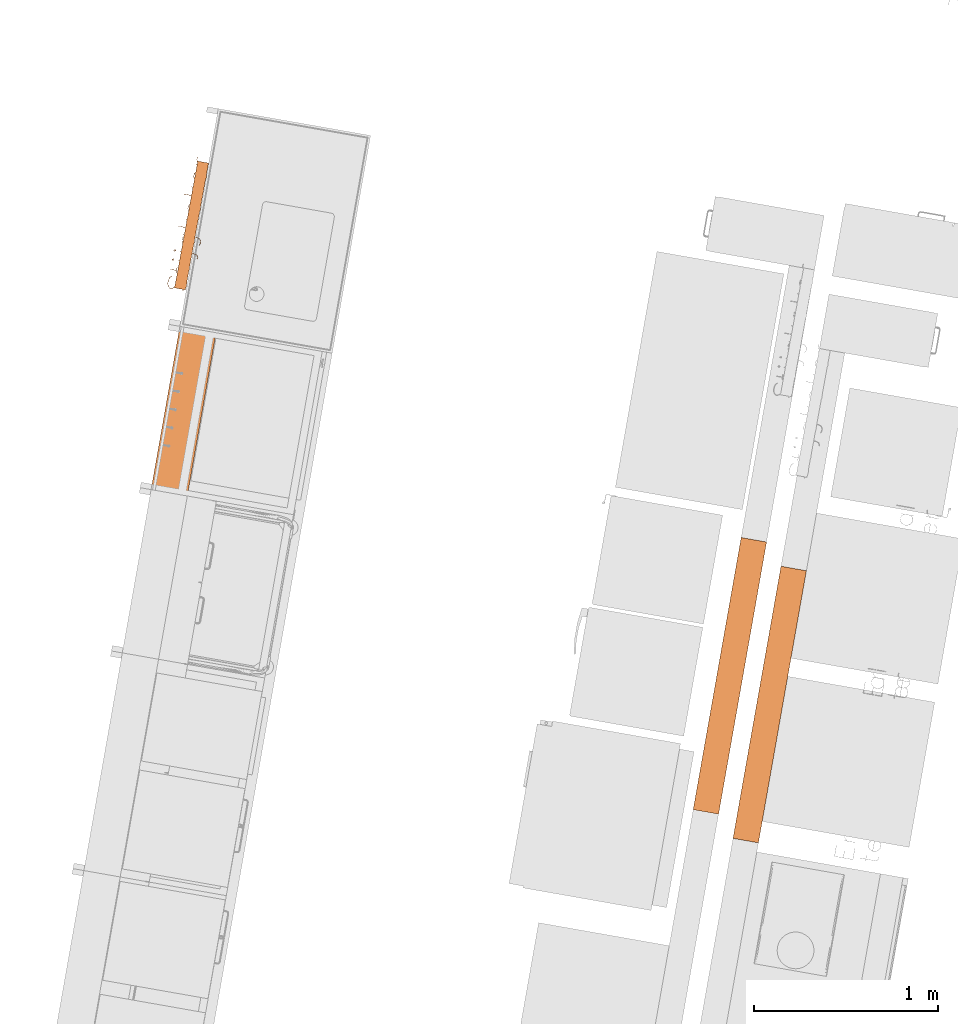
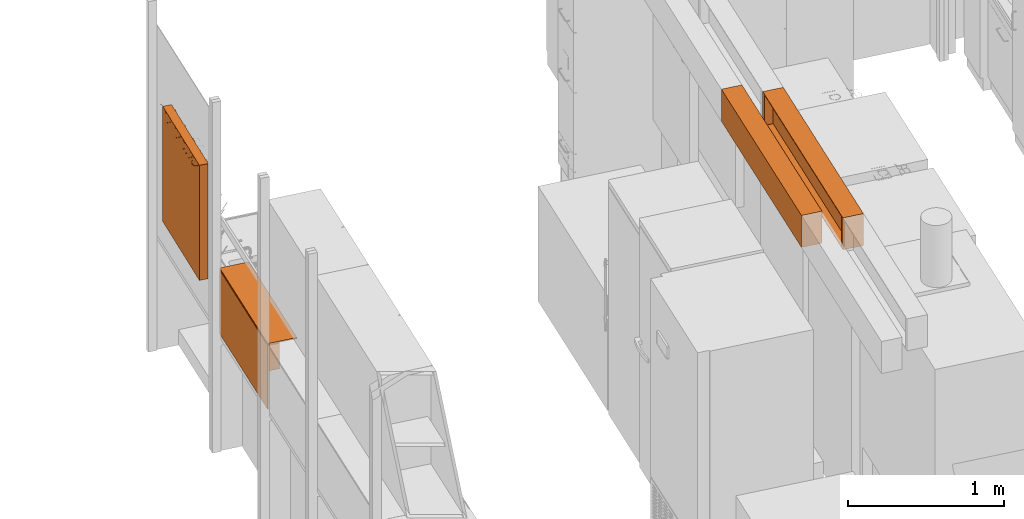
# One storey, part 15 of 43: 4 proxies.
"""IFC2X3 building model written with IfcOpenShell, lengths in metres."""

from ifc_helpers import new_model, entity, si_unit, converted_unit, derived_unit, direction, frame, frame_2d, origin, origin_2d_with_axis, place, context, subcontext, project, spatial, polyline, circle_curve, parameter, trimmed, segment, composite_curve, rectangle, outline, extrude, face_set, surface_model, source, transform, mapped, material, material_list, type_object, type_shapes, element, save


model = new_model("IFC2X3")

# Units and contexts
model_context = context("Model", 3, precision=1e-05, world=origin(), true_north=direction((6.12303176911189e-17, 1.0)))
body_context = subcontext(model_context, "Body", "Model", "MODEL_VIEW")
ifc_project = project(units=[si_unit("LENGTHUNIT", "METRE"), si_unit("AREAUNIT", "SQUARE_METRE"), si_unit("VOLUMEUNIT", "CUBIC_METRE"), converted_unit("PLANEANGLEUNIT", "DEGREE", entity("IfcRatioMeasure", 0.0174532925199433), si_unit("PLANEANGLEUNIT", "RADIAN"), dimensions=[0, 0, 0, 0, 0, 0, 0]), si_unit("MASSUNIT", "GRAM", prefix="KILO"), derived_unit("MASSDENSITYUNIT", [(si_unit("MASSUNIT", "GRAM", prefix="KILO"), 1), (si_unit("LENGTHUNIT", "METRE"), -3)]), derived_unit("MOMENTOFINERTIAUNIT", [(si_unit("LENGTHUNIT", "METRE"), 4)]), si_unit("TIMEUNIT", "SECOND"), si_unit("FREQUENCYUNIT", "HERTZ"), si_unit("THERMODYNAMICTEMPERATUREUNIT", "DEGREE_CELSIUS"), derived_unit("THERMALTRANSMITTANCEUNIT", [(si_unit("MASSUNIT", "GRAM", prefix="KILO"), 1), (si_unit("THERMODYNAMICTEMPERATUREUNIT", "KELVIN"), -1), (si_unit("TIMEUNIT", "SECOND"), -3)]), derived_unit("VOLUMETRICFLOWRATEUNIT", [(si_unit("LENGTHUNIT", "METRE"), 3), (si_unit("TIMEUNIT", "SECOND"), -1)]), si_unit("ELECTRICCURRENTUNIT", "AMPERE"), si_unit("ELECTRICVOLTAGEUNIT", "VOLT"), si_unit("POWERUNIT", "WATT"), si_unit("FORCEUNIT", "NEWTON", prefix="KILO"), si_unit("ILLUMINANCEUNIT", "LUX"), si_unit("LUMINOUSFLUXUNIT", "LUMEN"), si_unit("LUMINOUSINTENSITYUNIT", "CANDELA"), derived_unit("USERDEFINED", [(si_unit("MASSUNIT", "GRAM", prefix="KILO"), -1), (si_unit("LENGTHUNIT", "METRE"), -2), (si_unit("TIMEUNIT", "SECOND"), 3), (si_unit("LUMINOUSFLUXUNIT", "LUMEN"), 1)]), derived_unit("LINEARVELOCITYUNIT", [(si_unit("LENGTHUNIT", "METRE"), 1), (si_unit("TIMEUNIT", "SECOND"), -1)]), si_unit("PRESSUREUNIT", "PASCAL"), derived_unit("USERDEFINED", [(si_unit("LENGTHUNIT", "METRE"), -2), (si_unit("MASSUNIT", "GRAM", prefix="KILO"), 1), (si_unit("TIMEUNIT", "SECOND"), -2)]), derived_unit("LINEARFORCEUNIT", [(si_unit("MASSUNIT", "GRAM", prefix="KILO"), 1), (si_unit("LENGTHUNIT", "METRE"), 1), (si_unit("TIMEUNIT", "SECOND"), -2), (si_unit("LENGTHUNIT", "METRE"), -1)]), derived_unit("PLANARFORCEUNIT", [(si_unit("MASSUNIT", "GRAM", prefix="KILO"), 1), (si_unit("LENGTHUNIT", "METRE"), 1), (si_unit("TIMEUNIT", "SECOND"), -2), (si_unit("LENGTHUNIT", "METRE"), -2)])], contexts=[model_context])

# Site, building, storey
site_placement = place(None, origin())
site = spatial("IfcSite", under=ifc_project, at=site_placement, Name="Default", CompositionType="ELEMENT")
building_placement = place(site_placement, origin())
building = spatial("IfcBuilding", under=site, at=building_placement, CompositionType="ELEMENT")
storey_placement = place(building_placement, frame((0.0, 0.0, 3.0)))
storey = spatial("IfcBuildingStorey", under=building, at=storey_placement, Name="01 OG", CompositionType="ELEMENT", Elevation=3.0)

# Proxies
ifc_material_1 = material(Name="dh_Weiß")
ifc_material_2 = material(Name="dh_Glas WHS")
ifc_material_3 = material(Name="dh_Blau")
ifc_material_list_1 = material_list([ifc_material_1, ifc_material_2, ifc_material_3])
ifc_material_list_2 = material_list([ifc_material_1, ifc_material_2, ifc_material_3])
building_element_proxy_type_1 = type_object("IfcBuildingElementProxyType", Name="dh_Medienwand WHA:90 Stehtisch", PredefinedType="NOTDEFINED", material=ifc_material_list_2)
shared_shape_1 = source(origin(), body_context, "Body", "SweptSolid", [
    extrude(outline(composite_curve([segment(trimmed(circle_curve(frame_2d((0.0, 0.0), x_axis=(-1.0, 0.0)), 0.01), [parameter(0.0)], [parameter(180.0)], True, "PARAMETER"), True, "CONTINUOUS"), segment(polyline([(0.01, 0.0), (-0.01, 0.0)]), True, "CONTINUOUS")], self_intersect=False)), frame((-0.589999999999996, 0.1, 1.40999999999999), z_axis=(0.0, -1.0, 0.0), x_axis=(1.0, 0.0, 0.0)), (0.0, 0.0, -1.0), 0.2),
    extrude(outline(composite_curve([segment(trimmed(circle_curve(origin_2d_with_axis(), 0.00999999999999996), [parameter(0.0)], [parameter(180.0)], True, "PARAMETER"), True, "CONTINUOUS"), segment(polyline([(-0.0099999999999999, 0.0), (0.0099999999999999, 0.0)]), True, "CONTINUOUS")], self_intersect=False)), frame((0.290000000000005, 0.1, 1.40999999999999), z_axis=(0.0, 1.0, 0.0), x_axis=(1.0, 0.0, 0.0)), (0.0, 0.0, 1.0), 0.2),
    extrude(rectangle(XDim=0.9, YDim=0.2, at=origin_2d_with_axis()), frame((-0.149999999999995, 0.2, 1.40999999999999), z_axis=(0.0, 0.0, 1.0), x_axis=(-1.0, 0.0, 0.0)), (0.0, 0.0, 1.0), 0.00499999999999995),
    extrude(rectangle(XDim=0.00500000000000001, YDim=0.9, at=frame_2d((-3.38271077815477e-17, -5.55111512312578e-17), x_axis=(1.0, 0.0))), frame((-0.15, 0.2975, 0.900000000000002), z_axis=(0.0, 0.0, 1.0), x_axis=(0.0, 1.0, 0.0)), (0.0, 0.0, 1.0), 0.299999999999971),
    extrude(rectangle(XDim=0.9, YDim=0.08, at=frame_2d((0.0, 3.46944695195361e-17), x_axis=(1.0, 0.0))), frame((-0.15, 0.26, 1.20000000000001), z_axis=(0.0, 0.0, 1.0), x_axis=(-1.0, 0.0, 0.0)), (0.0, 0.0, 1.0), 0.199999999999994),
])
type_shapes(building_element_proxy_type_1, [shared_shape_1])
proxy_1_placement = place(storey_placement, frame((23.1692002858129, 11.2098740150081, 0.0), z_axis=(0.0, 0.0, 1.0), x_axis=(0.173648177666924, 0.984807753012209, 0.0)))
element("IfcBuildingElementProxy", 1, at=proxy_1_placement, inside=storey, type_object=building_element_proxy_type_1, material=ifc_material_list_1, Name="dh_Medienwand WHA:90 Stehtisch", ObjectType="dh_Medienwand WHA:90 Stehtisch", context=body_context, shape_type="MappedRepresentation", body=[
    mapped(shared_shape_1, transform((0.0, 0.0, 0.0), scale=1.0)),
])
ifc_material_4 = material(Name="dh_EZ blau")
ifc_material_list_3 = material_list([ifc_material_4, ifc_material_1])
ifc_material_list_4 = material_list([ifc_material_1, ifc_material_3, ifc_material_4])
building_element_proxy_type_2 = type_object("IfcBuildingElementProxyType", Name="dh_Einzel_ MEK:MEK 150", PredefinedType="NOTDEFINED", material=ifc_material_list_4)
shared_shape_2 = source(origin(), body_context, "Body", "SweptSolid", [
    extrude(rectangle(XDim=0.06, YDim=0.0299999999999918, at=origin_2d_with_axis()), frame((0.88500000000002, 0.33, 2.19499999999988), z_axis=(0.0, 0.0, 1.0), x_axis=(0.0, 1.0, 0.0)), (0.0, 0.0, 1.0), 0.240000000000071),
    extrude(rectangle(XDim=0.06, YDim=0.0299999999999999, at=origin_2d_with_axis()), frame((-0.584999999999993, 0.33, 2.19499999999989), z_axis=(0.0, 0.0, 1.0), x_axis=(0.0, 1.0, 0.0)), (0.0, 0.0, 1.0), 0.240000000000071),
    extrude(rectangle(XDim=0.06, YDim=1.50000000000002, at=origin_2d_with_axis()), frame((0.150000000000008, 0.33, 2.43499999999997), z_axis=(0.0, 0.0, 1.0), x_axis=(0.0, 1.0, 0.0)), (0.0, 0.0, 1.0), 0.00499999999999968),
    extrude(rectangle(XDim=1.50000000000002, YDim=0.14, at=frame_2d((-2.4980018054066e-15, -0.00333333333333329), x_axis=(1.0, 0.0))), frame((0.15000000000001, 0.293333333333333, 2.18999999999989)), (0.0, 0.0, 1.0), 0.00499999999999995),
    extrude(rectangle(XDim=0.08, YDim=1.50000000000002, at=frame_2d((0.0133333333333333, -1.11022302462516e-16), x_axis=(1.0, 0.0))), frame((0.150000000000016, 0.273333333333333, 2.43499999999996), z_axis=(0.0, 0.0, 1.0), x_axis=(0.0, -1.0, 0.0)), (0.0, 0.0, 1.0), 0.00500000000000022),
    extrude(rectangle(XDim=1.5, YDim=0.08, at=frame_2d((0.0, 3.46944695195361e-17), x_axis=(1.0, 0.0))), frame((0.15, 0.26, 2.195), z_axis=(0.0, 0.0, 1.0), x_axis=(-1.0, 0.0, 0.0)), (0.0, 0.0, 1.0), 0.239999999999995),
])
type_shapes(building_element_proxy_type_2, [shared_shape_2])
proxy_2_placement = place(storey_placement, frame((26.3875064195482, 9.30609839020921, 0.0), z_axis=(0.0, 0.0, 1.0), x_axis=(0.173648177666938, 0.984807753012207, 0.0)))
element("IfcBuildingElementProxy", 2, at=proxy_2_placement, inside=storey, type_object=building_element_proxy_type_2, material=ifc_material_list_3, Name="dh_Einzel_ MEK:MEK 150", ObjectType="dh_Einzel_ MEK:MEK 150", context=body_context, shape_type="MappedRepresentation", body=[
    mapped(shared_shape_2, transform((0.0, 0.0, 0.0), scale=1.0)),
])
ifc_material_list_5 = material_list([ifc_material_4, ifc_material_1])
proxy_3_placement = place(storey_placement, frame((25.6522017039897, 9.85816992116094, 0.0), z_axis=(0.0, 0.0, 1.0), x_axis=(-0.173648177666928, -0.984807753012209, 0.0)))
element("IfcBuildingElementProxy", 3, at=proxy_3_placement, inside=storey, type_object=building_element_proxy_type_2, material=ifc_material_list_5, Name="dh_Einzel_ MEK:MEK 150", ObjectType="dh_Einzel_ MEK:MEK 150", context=body_context, shape_type="MappedRepresentation", body=[
    mapped(shared_shape_2, transform((0.0, 0.0, 0.0), scale=1.0)),
])
ifc_material_5 = material(Name="dh_Stellfläche")
building_element_proxy_type_3 = type_object("IfcBuildingElementProxyType", Name="dh_Gerät_Stellfläche Bestand:Nutzergerät", PredefinedType="NOTDEFINED", material=ifc_material_5)
shared_shape_3 = source(origin(), body_context, "Body", "SurfaceModel", [
    surface_model("IfcFaceBasedSurfaceModel", [(-0.355113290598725, -0.0453817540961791, 0.905000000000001), (-0.356700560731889, -0.0470458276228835, 0.905000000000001), (-0.346946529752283, -0.0567998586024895, 0.905000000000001), (-0.332277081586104, -0.0616384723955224, 0.905000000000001), (-0.312948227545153, -0.0616384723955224, 0.905000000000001), (-0.298278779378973, -0.0567998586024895, 0.905000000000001), (-0.288166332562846, -0.0466618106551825, 0.905000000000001), (-0.288166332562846, -0.0314547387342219, 0.905000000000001), (-0.29308174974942, -0.0214446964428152, 0.905000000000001), (-0.298073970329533, -0.0163500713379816, 0.905000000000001), (-0.307904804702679, -0.0115114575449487, 0.905000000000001), (-0.336450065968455, -0.00188543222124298, 0.905000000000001), (-0.34569207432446, 0.00295318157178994, 0.905000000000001), (-0.350197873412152, 0.00745898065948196, 0.905000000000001), (-0.354857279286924, 0.0166497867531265, 0.905000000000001), (-0.354857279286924, 0.0255845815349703, 0.905000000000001), (-0.34582007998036, 0.0347241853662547, 0.905000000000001), (-0.331944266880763, 0.0393579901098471, 0.905000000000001), (-0.313204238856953, 0.0393579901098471, 0.905000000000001), (-0.299328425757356, 0.0347241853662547, 0.905000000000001), (-0.290112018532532, 0.0252005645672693, 0.905000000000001), (-0.288447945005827, 0.0268646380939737, 0.905000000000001), (-0.298278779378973, 0.0366186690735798, 0.905000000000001), (-0.312948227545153, 0.041585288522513, 0.905000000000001), (-0.332277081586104, 0.041585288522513, 0.905000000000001), (-0.346946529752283, 0.0366186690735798, 0.905000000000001), (-0.35698217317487, 0.0264550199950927, 0.905000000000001), (-0.35698217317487, 0.016112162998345, 0.905000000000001), (-0.352117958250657, 0.00610212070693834, 0.905000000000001), (-0.347074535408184, 0.00100749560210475, 0.905000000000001), (-0.337243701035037, -0.00383111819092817, 0.905000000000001), (-0.308698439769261, -0.0134571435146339, 0.905000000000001), (-0.299456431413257, -0.0182957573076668, 0.905000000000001), (-0.294950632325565, -0.0228015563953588, 0.905000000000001), (-0.290368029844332, -0.0320691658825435, 0.905000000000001), (-0.290368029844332, -0.0457657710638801, 0.905000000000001), (-0.299328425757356, -0.0549053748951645, 0.905000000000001), (-0.313204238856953, -0.0595647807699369, 0.905000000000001), (-0.331944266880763, -0.0595647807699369, 0.905000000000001), (-0.34582007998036, -0.0549053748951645, 0.905000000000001), (-0.230691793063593, -0.0616384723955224, 0.905000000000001), (-0.230691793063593, -0.0595647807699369, 0.905000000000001), (-0.239908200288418, -0.0595647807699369, 0.905000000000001), (-0.248740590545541, -0.055084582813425, 0.905000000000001), (-0.253399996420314, -0.0413879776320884, 0.905000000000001), (-0.253399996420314, 0.00533408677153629, 0.905000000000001), (-0.235402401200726, 0.00533408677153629, 0.905000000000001), (-0.235402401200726, 0.00745898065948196, 0.905000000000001), (-0.253399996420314, 0.00745898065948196, 0.905000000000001), (-0.253399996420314, 0.0399468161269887, 0.905000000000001), (-0.255576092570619, 0.0399468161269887, 0.905000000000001), (-0.255576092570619, 0.00745898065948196, 0.905000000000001), (-0.268735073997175, 0.00745898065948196, 0.905000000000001), (-0.268735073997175, 0.00533408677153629, 0.905000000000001), (-0.255576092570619, 0.00533408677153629, 0.905000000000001), (-0.255576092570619, -0.0416439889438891, 0.905000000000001), (-0.250660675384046, -0.0566974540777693, 0.905000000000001), (-0.240445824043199, -0.0616384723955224, 0.905000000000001), (-0.201327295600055, -0.0599999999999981, 0.905000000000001), (-0.199202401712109, -0.0599999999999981, 0.905000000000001), (-0.199202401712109, 0.00666534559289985, 0.905000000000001), (-0.201327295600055, 0.00666534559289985, 0.905000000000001), (-0.17329405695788, -0.0922318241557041, 0.905000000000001), (-0.17329405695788, -0.0944079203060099, 0.905000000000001), (-0.163744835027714, -0.0944079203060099, 0.905000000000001), (-0.153581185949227, -0.0893644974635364, 0.905000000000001), (-0.148665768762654, -0.0744390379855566, 0.905000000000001), (-0.148665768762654, 0.00651173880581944, 0.905000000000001), (-0.15086746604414, 0.00651173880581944, 0.905000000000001), (-0.15086746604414, -0.0741574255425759, 0.905000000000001), (-0.155501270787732, -0.087700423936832, 0.905000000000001), (-0.164333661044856, -0.0922318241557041, 0.905000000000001), (-0.100049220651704, -0.0875980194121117, 0.905000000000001), (-0.101175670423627, -0.0895181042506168, 0.905000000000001), (-0.0913448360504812, -0.0944079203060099, 0.905000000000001), (-0.0765473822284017, -0.0944079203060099, 0.905000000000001), (-0.0666397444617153, -0.0895181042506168, 0.905000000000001), (-0.0615963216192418, -0.0843466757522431, 0.905000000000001), (-0.0566809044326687, -0.069728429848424, 0.905000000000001), (-0.0566809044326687, 0.00615332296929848, 0.905000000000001), (-0.0588826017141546, 0.00615332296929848, 0.905000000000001), (-0.0588826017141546, -0.00552079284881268, 0.905000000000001), (-0.0666397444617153, 0.0023387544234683, 0.905000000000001), (-0.0765473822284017, 0.00717736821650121, 0.905000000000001), (-0.0913448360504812, 0.00717736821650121, 0.905000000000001), (-0.101303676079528, 0.0023387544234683, 0.905000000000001), (-0.111057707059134, -0.00756888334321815, 0.905000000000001), (-0.115973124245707, -0.0221871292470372, 0.905000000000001), (-0.115973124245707, -0.0319923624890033, 0.905000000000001), (-0.111057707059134, -0.0465850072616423, 0.905000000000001), (-0.101303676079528, -0.0564926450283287, 0.905000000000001), (-0.0913448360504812, -0.0612544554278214, 0.905000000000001), (-0.0765473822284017, -0.0612544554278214, 0.905000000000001), (-0.0666397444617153, -0.0564926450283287, 0.905000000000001), (-0.0588826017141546, -0.0485818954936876, 0.905000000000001), (-0.0588826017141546, -0.0694724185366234, 0.905000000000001), (-0.0634652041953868, -0.0832970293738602, 0.905000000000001), (-0.0679710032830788, -0.0875980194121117, 0.905000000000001), (-0.077059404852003, -0.0922318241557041, 0.905000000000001), (-0.0908072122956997, -0.0922318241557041, 0.905000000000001), (-0.0588826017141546, -0.0452537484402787, 0.905000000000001), (-0.0679710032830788, -0.0542909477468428, 0.905000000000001), (-0.077059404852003, -0.0588735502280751, 0.905000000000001), (-0.0908072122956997, -0.0588735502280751, 0.905000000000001), (-0.0999212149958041, -0.0542909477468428, 0.905000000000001), (-0.109214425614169, -0.0451257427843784, 0.905000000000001), (-0.113797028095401, -0.0312499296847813, 0.905000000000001), (-0.113797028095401, -0.0220079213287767, 0.905000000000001), (-0.109214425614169, -0.00813210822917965, 0.905000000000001), (-0.0999212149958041, 0.000956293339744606, 0.905000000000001), (-0.0908072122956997, 0.00561569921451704, 0.905000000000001), (-0.077059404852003, 0.00561569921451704, 0.905000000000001), (-0.0679710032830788, 0.000956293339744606, 0.905000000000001), (-0.0588826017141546, -0.00800410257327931, 0.905000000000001), (-0.017818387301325, -0.0599999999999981, 0.905000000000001), (-0.0156934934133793, -0.0599999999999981, 0.905000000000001), (-0.0156934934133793, -0.0413367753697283, 0.905000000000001), (0.00230410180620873, -0.0235439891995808, 0.905000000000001), (0.0347919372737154, -0.0599999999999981, 0.905000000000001), (0.0364560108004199, -0.0587455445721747, 0.905000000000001), (0.00376336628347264, -0.0214958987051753, 0.905000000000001), (0.0316685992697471, 0.00625572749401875, 0.905000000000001), (0.0300813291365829, 0.00784299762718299, 0.905000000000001), (-0.0156934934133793, -0.0379574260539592, 0.905000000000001), (-0.0156934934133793, 0.0399468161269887, 0.905000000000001), (-0.017818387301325, 0.0399468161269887, 0.905000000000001), (0.120146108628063, -0.0469178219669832, 0.905000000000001), (0.125061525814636, -0.0322227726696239, 0.905000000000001), (0.125061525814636, -0.0223663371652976, 0.905000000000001), (0.120146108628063, -0.00767128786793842, 0.905000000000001), (0.110315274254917, 0.00231315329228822, 0.905000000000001), (0.100407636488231, 0.00717736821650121, 0.905000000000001), (0.0856101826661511, 0.00717736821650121, 0.905000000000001), (0.0756513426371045, 0.00231315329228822, 0.905000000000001), (0.0658973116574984, -0.00767128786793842, 0.905000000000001), (0.0609818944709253, -0.0223663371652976, 0.905000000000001), (0.0609818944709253, -0.0322227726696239, 0.905000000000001), (0.0658973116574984, -0.0469178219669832, 0.905000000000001), (0.0756513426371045, -0.0568510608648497, 0.905000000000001), (0.0856101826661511, -0.0616384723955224, 0.905000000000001), (0.100407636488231, -0.0616384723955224, 0.905000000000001), (0.110315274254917, -0.0568510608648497, 0.905000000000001), (0.118200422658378, -0.0451257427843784, 0.905000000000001), (0.108984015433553, -0.0542909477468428, 0.905000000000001), (0.0998956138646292, -0.0588735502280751, 0.905000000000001), (0.0861478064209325, -0.0588735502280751, 0.905000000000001), (0.0770338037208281, -0.0542909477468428, 0.905000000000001), (0.0677405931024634, -0.0451257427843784, 0.905000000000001), (0.0631579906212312, -0.0312499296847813, 0.905000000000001), (0.0631579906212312, -0.0220079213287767, 0.905000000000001), (0.0677405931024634, -0.00813210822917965, 0.905000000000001), (0.0770338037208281, 0.000956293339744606, 0.905000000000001), (0.0861478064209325, 0.00561569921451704, 0.905000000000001), (0.0998956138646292, 0.00561569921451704, 0.905000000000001), (0.108984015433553, 0.000956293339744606, 0.905000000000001), (0.118200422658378, -0.00813210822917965, 0.905000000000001), (0.12285982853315, -0.0220079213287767, 0.905000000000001), (0.12285982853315, -0.0312499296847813, 0.905000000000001), (0.159136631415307, -0.0599999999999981, 0.905000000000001), (0.161261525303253, -0.0599999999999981, 0.905000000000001), (0.161261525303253, -0.0413367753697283, 0.905000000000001), (0.179259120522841, -0.0235439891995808, 0.905000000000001), (0.211746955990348, -0.0599999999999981, 0.905000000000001), (0.213411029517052, -0.0587455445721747, 0.905000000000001), (0.180718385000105, -0.0214958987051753, 0.905000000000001), (0.208623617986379, 0.00625572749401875, 0.905000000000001), (0.207036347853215, 0.00784299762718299, 0.905000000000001), (0.161261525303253, -0.0379574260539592, 0.905000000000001), (0.161261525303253, 0.0399468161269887, 0.905000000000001), (0.159136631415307, 0.0399468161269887, 0.905000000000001), (0.296973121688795, -0.0471994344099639, 0.905000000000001), (0.295309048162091, -0.0455353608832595, 0.905000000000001), (0.285939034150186, -0.0549821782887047, 0.905000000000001), (0.276850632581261, -0.0595647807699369, 0.905000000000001), (0.263102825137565, -0.0595647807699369, 0.905000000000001), (0.253988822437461, -0.0549821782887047, 0.905000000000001), (0.244695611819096, -0.0457913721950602, 0.905000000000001), (0.240113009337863, -0.0318899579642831, 0.905000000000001), (0.240113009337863, -0.0236463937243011, 0.905000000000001), (0.297229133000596, -0.0236463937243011, 0.905000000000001), (0.297229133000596, -0.0127147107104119, 0.905000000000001), (0.292313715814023, -0.00273026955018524, 0.905000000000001), (0.287270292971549, 0.00231315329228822, 0.905000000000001), (0.277362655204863, 0.00717736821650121, 0.905000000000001), (0.262565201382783, 0.00717736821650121, 0.905000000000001), (0.252606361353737, 0.00231315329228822, 0.905000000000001), (0.242852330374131, -0.00767128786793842, 0.905000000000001), (0.237936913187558, -0.0223663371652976, 0.905000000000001), (0.237936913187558, -0.0322227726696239, 0.905000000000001), (0.242852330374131, -0.0469178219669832, 0.905000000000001), (0.252606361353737, -0.0568510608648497, 0.905000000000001), (0.262565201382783, -0.0616384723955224, 0.905000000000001), (0.277362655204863, -0.0616384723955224, 0.905000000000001), (0.287270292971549, -0.0568510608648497, 0.905000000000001), (0.240522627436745, -0.0214446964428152, 0.905000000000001), (0.244695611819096, -0.00874653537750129, 0.905000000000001), (0.253988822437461, 0.000341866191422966, 0.905000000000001), (0.263102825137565, 0.0050012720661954, 0.905000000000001), (0.276850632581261, 0.0050012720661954, 0.905000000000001), (0.285939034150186, 0.000341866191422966, 0.905000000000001), (0.290444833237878, -0.00416393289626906, 0.905000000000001), (0.29502743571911, -0.0132779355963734, 0.905000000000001), (0.29502743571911, -0.0214446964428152, 0.905000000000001), (0.331176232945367, -0.0599999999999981, 0.905000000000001), (0.333301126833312, -0.0599999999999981, 0.905000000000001), (0.333301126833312, -0.0223407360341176, 0.905000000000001), (0.337960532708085, -0.00856732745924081, 0.905000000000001), (0.347202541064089, 0.000469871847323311, 0.905000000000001), (0.356342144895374, 0.00507807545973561, 0.905000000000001), (0.370371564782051, 0.00507807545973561, 0.905000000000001), (0.370371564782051, 0.00717736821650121, 0.905000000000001), (0.355753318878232, 0.00717736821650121, 0.905000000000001), (0.345871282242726, 0.00236435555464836, 0.905000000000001), (0.336040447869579, -0.00751768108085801, 0.905000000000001), (0.333301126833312, -0.0156076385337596, 0.905000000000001), (0.333301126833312, 0.00630692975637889, 0.905000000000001), (0.331176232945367, 0.00630692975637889, 0.905000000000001), (-0.149792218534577, 0.0291175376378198, 0.905000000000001), (-0.14349434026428, 0.0353386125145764, 0.905000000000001), (-0.149792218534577, 0.041585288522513, 0.905000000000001), (-0.156038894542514, 0.0353386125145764, 0.905000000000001), (-0.149792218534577, 0.0319592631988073, 0.905000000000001), (-0.153043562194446, 0.035210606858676, 0.905000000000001), (-0.149792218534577, 0.0384875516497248, 0.905000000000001), (-0.146464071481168, 0.035210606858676, 0.905000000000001), (-0.200252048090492, 0.0291175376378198, 0.905000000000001), (-0.194005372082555, 0.0353386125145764, 0.905000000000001), (-0.200252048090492, 0.041585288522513, 0.905000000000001), (-0.206498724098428, 0.0353386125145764, 0.905000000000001), (-0.200252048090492, 0.0319592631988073, 0.905000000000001), (-0.20350339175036, 0.035210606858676, 0.905000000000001), (-0.200252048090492, 0.0384875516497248, 0.905000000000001), (-0.197000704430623, 0.035210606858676, 0.905000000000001), (0.35, 0.0, 0.9), (0.35, -0.06, 0.9), (-0.35, -0.06, 0.9), (-0.35, 0.0, 0.9), (0.35, 0.0, 0.0), (0.35, -0.06, 0.0), (-0.35, -0.06, 0.0), (-0.35, 0.0, 0.0)], [face_set([[[0, 1, 2, 3, 4, 5, 6, 7, 8, 9, 10, 11, 12, 13, 14, 15, 16, 17, 18, 19, 20, 21, 22, 23, 24, 25, 26, 27, 28, 29, 30, 31, 32, 33, 34, 35, 36, 37, 38, 39]]]), face_set([[[40, 41, 42, 43, 44, 45, 46, 47, 48, 49, 50, 51, 52, 53, 54, 55, 56, 57]]]), face_set([[[58, 59, 60, 61]]]), face_set([[[62, 63, 64, 65, 66, 67, 68, 69, 70, 71]]]), face_set([[[72, 73, 74, 75, 76, 77, 78, 79, 80, 81, 82, 83, 84, 85, 86, 87, 88, 89, 90, 91, 92, 93, 94, 95, 96, 97, 98, 99], [100, 101, 102, 103, 104, 105, 106, 107, 108, 109, 110, 111, 112, 113]]]), face_set([[[114, 115, 116, 117, 118, 119, 120, 121, 122, 123, 124, 125]]]), face_set([[[126, 127, 128, 129, 130, 131, 132, 133, 134, 135, 136, 137, 138, 139, 140, 141], [142, 143, 144, 145, 146, 147, 148, 149, 150, 151, 152, 153, 154, 155, 156, 157]]]), face_set([[[158, 159, 160, 161, 162, 163, 164, 165, 166, 167, 168, 169]]]), face_set([[[170, 171, 172, 173, 174, 175, 176, 177, 178, 179, 180, 181, 182, 183, 184, 185, 186, 187, 188, 189, 190, 191, 192, 193], [194, 195, 196, 197, 198, 199, 200, 201, 202]]]), face_set([[[203, 204, 205, 206, 207, 208, 209, 210, 211, 212, 213, 214, 215, 216]]]), face_set([[[217, 218, 219, 220], [221, 222, 223, 224]]]), face_set([[[225, 226, 227, 228], [229, 230, 231, 232]]]), face_set([[[233, 234, 235, 236]], [[237, 238, 239, 240]], [[236, 233, 237, 240]], [[235, 236, 240, 239]], [[234, 238, 239, 235]], [[233, 234, 238, 237]]])]),
])
type_shapes(building_element_proxy_type_3, [shared_shape_3])
proxy_4_placement = place(storey_placement, frame((22.9600180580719, 12.1102902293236, 1.2), z_axis=(0.0, 0.0, 1.0), x_axis=(0.180288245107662, 0.983613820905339, 0.0)))
element("IfcBuildingElementProxy", 4, at=proxy_4_placement, inside=storey, type_object=building_element_proxy_type_3, material=ifc_material_5, Name="dh_Gerät_Stellfläche Bestand:Nutzergerät", ObjectType="dh_Gerät_Stellfläche Bestand:Nutzergerät", context=body_context, shape_type="MappedRepresentation", body=[
    mapped(shared_shape_3, transform((0.0, 0.0, 0.0), scale=1.0)),
])

save(model, "model.ifc")
